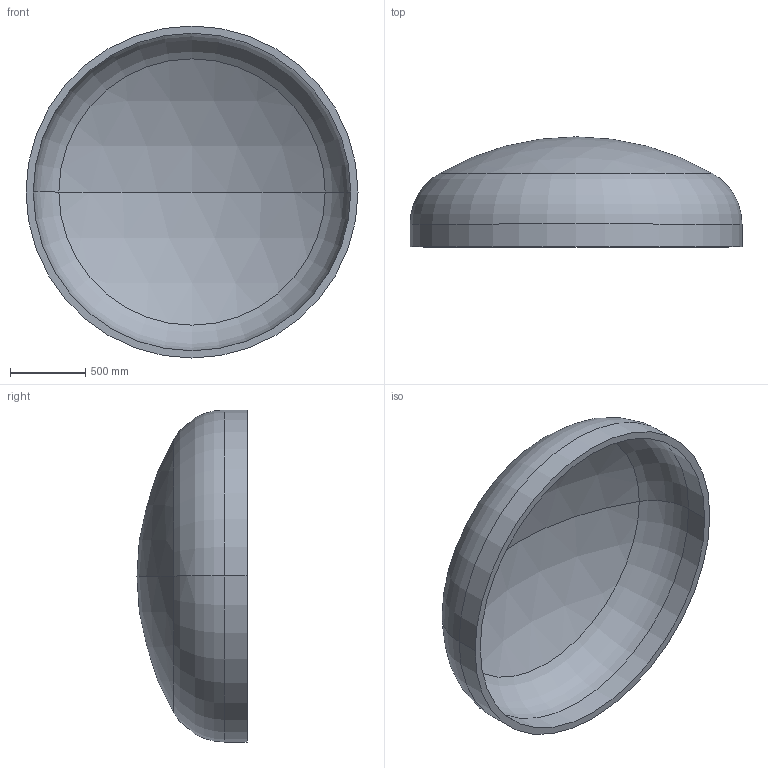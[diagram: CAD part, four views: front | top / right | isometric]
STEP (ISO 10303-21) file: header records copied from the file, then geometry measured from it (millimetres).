
FILE_DESCRIPTION (( 'STEP AP203' ), '1' );
FILE_NAME ('DIN 28013 Korbbogenform_-_Boden DIN 28013 - 2200 x 150 - I - s=48.step', '2016-07-01T14:39:37', ( '' ), ( '' ), 'SwSTEP 2.0', 'SolidWorks 2013', '' );
FILE_SCHEMA (( 'CONFIG_CONTROL_DESIGN' ));
Length unit declared in the file: millimetre
Products named in the file (1): DIN 28013 Korbbogenform_-_Boden DIN 28013 - 2200 x 150 - I - s=48
Bounding box: 2200 x 729.4 x 2200 mm (x, y, z)
Volume: 294413453.4 mm3; surface area: 12596562.9 mm2
Topology: 1 solids, 1 shells, 13 faces, 24 edges, 14 vertices
Faces by surface type: torus 4, cylinder 4, sphere 4, plane 1
Entity records: 407 total; most frequent: DIRECTION 72, CARTESIAN_POINT 52, ORIENTED_EDGE 48, AXIS2_PLACEMENT_3D 34, EDGE_CURVE 24, CIRCLE 20, EDGE_LOOP 14, VERTEX_POINT 14
